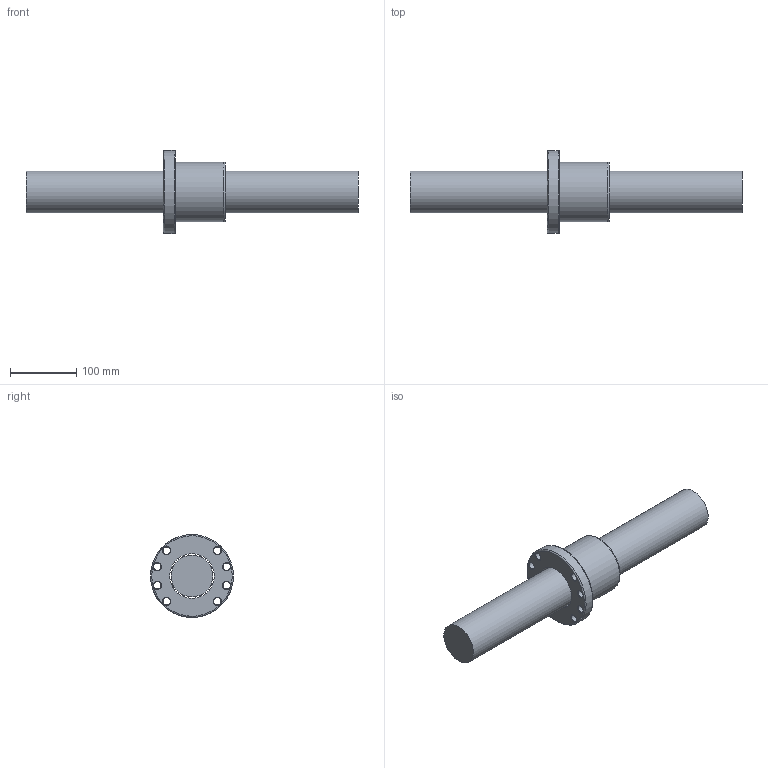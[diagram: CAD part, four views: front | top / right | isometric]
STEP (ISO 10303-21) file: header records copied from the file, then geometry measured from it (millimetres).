
FILE_DESCRIPTION (( 'STEP AP203' ), '1' );
FILE_NAME ('SFNU06310N-4.step', '2024-05-10T07:01:09', ( '' ), ( '' ), 'SwSTEP 2.0', 'SolidWorks 2022', '' );
FILE_SCHEMA (( 'CONFIG_CONTROL_DESIGN' ));
Length unit declared in the file: millimetre
Products named in the file (1): SFNU06310N-4
Bounding box: 500 x 125 x 125 mm (x, y, z)
Volume: 1913412.2 mm3; surface area: 173370.9 mm2
Topology: 2 solids, 2 shells, 51 faces, 127 edges, 81 vertices
Faces by surface type: cylinder 20, cone 17, plane 6, bspline 5, torus 3
Full cylindrical faces by diameter (mm): 4 x1, 7 x6, 11 x8, 63 x1, 67.1 x1, 90 x1, 125 x1
Entity records: 2893 total; most frequent: CARTESIAN_POINT 1972, DIRECTION 176, ORIENTED_EDGE 118, EDGE_LOOP 100, AXIS2_PLACEMENT_3D 86, FACE_OUTER_BOUND 62, EDGE_CURVE 59, VERTEX_POINT 55
